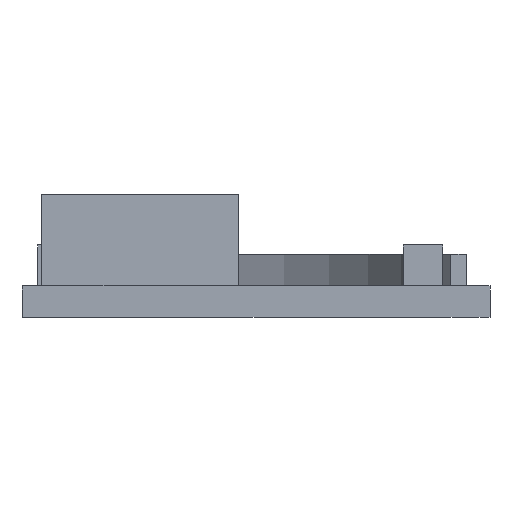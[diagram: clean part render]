
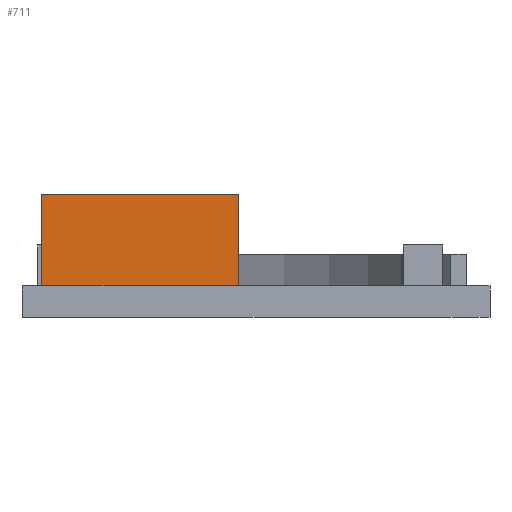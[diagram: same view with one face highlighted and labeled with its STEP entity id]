
A CAD part, front view. The second image highlights one B-rep face of the part: STEP entity #711.
In plain terms, the highlighted planar face has unit normal (0, -1, 0).
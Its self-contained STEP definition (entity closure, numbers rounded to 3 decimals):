
#82 = PLANE ( 'NONE',  #227 ) ;
#114 = CARTESIAN_POINT ( 'NONE',  ( 1.25, 1.25, 2. ) ) ;
#136 = LINE ( 'NONE', #855, #908 ) ;
#142 = EDGE_CURVE ( 'NONE', #213, #191, #625, .T. ) ;
#144 = DIRECTION ( 'NONE',  ( -1., 0., 0. ) ) ;
#159 = CARTESIAN_POINT ( 'NONE',  ( 13.75, 1.25, 2. ) ) ;
#165 = EDGE_LOOP ( 'NONE', ( #865, #279, #573, #239 ) ) ;
#180 = EDGE_CURVE ( 'NONE', #191, #216, #959, .T. ) ;
#181 = CARTESIAN_POINT ( 'NONE',  ( 0., 1.25, 31.278 ) ) ;
#191 = VERTEX_POINT ( 'NONE', #964 ) ;
#205 = EDGE_CURVE ( 'NONE', #216, #915, #802, .T. ) ;
#213 = VERTEX_POINT ( 'NONE', #868 ) ;
#216 = VERTEX_POINT ( 'NONE', #159 ) ;
#227 = AXIS2_PLACEMENT_3D ( 'NONE', #181, #805, #1090 ) ;
#239 = ORIENTED_EDGE ( 'NONE', *, *, #910, .T. ) ;
#241 = CARTESIAN_POINT ( 'NONE',  ( 0., 1.25, 7.8 ) ) ;
#275 = VECTOR ( 'NONE', #1080, 1000. ) ;
#279 = ORIENTED_EDGE ( 'NONE', *, *, #180, .F. ) ;
#386 = DIRECTION ( 'NONE',  ( 0., 0., -1. ) ) ;
#440 = FACE_OUTER_BOUND ( 'NONE', #165, .T. ) ;
#573 = ORIENTED_EDGE ( 'NONE', *, *, #142, .F. ) ;
#580 = VECTOR ( 'NONE', #977, 1000. ) ;
#625 = LINE ( 'NONE', #241, #275 ) ;
#711 = ADVANCED_FACE ( 'NONE', ( #440 ), #82, .F. ) ;
#726 = VECTOR ( 'NONE', #144, 1000. ) ;
#802 = LINE ( 'NONE', #970, #726 ) ;
#805 = DIRECTION ( 'NONE',  ( 0., 1., 0. ) ) ;
#855 = CARTESIAN_POINT ( 'NONE',  ( 1.25, 1.25, 31.278 ) ) ;
#865 = ORIENTED_EDGE ( 'NONE', *, *, #205, .F. ) ;
#868 = CARTESIAN_POINT ( 'NONE',  ( 1.25, 1.25, 7.8 ) ) ;
#884 = CARTESIAN_POINT ( 'NONE',  ( 13.75, 1.25, 31.278 ) ) ;
#908 = VECTOR ( 'NONE', #386, 1000. ) ;
#910 = EDGE_CURVE ( 'NONE', #213, #915, #136, .T. ) ;
#915 = VERTEX_POINT ( 'NONE', #114 ) ;
#959 = LINE ( 'NONE', #884, #580 ) ;
#964 = CARTESIAN_POINT ( 'NONE',  ( 13.75, 1.25, 7.8 ) ) ;
#970 = CARTESIAN_POINT ( 'NONE',  ( 0., 1.25, 2. ) ) ;
#977 = DIRECTION ( 'NONE',  ( 0., 0., -1. ) ) ;
#1080 = DIRECTION ( 'NONE',  ( 1., 0., 0. ) ) ;
#1090 = DIRECTION ( 'NONE',  ( -1., 0., 0. ) ) ;
